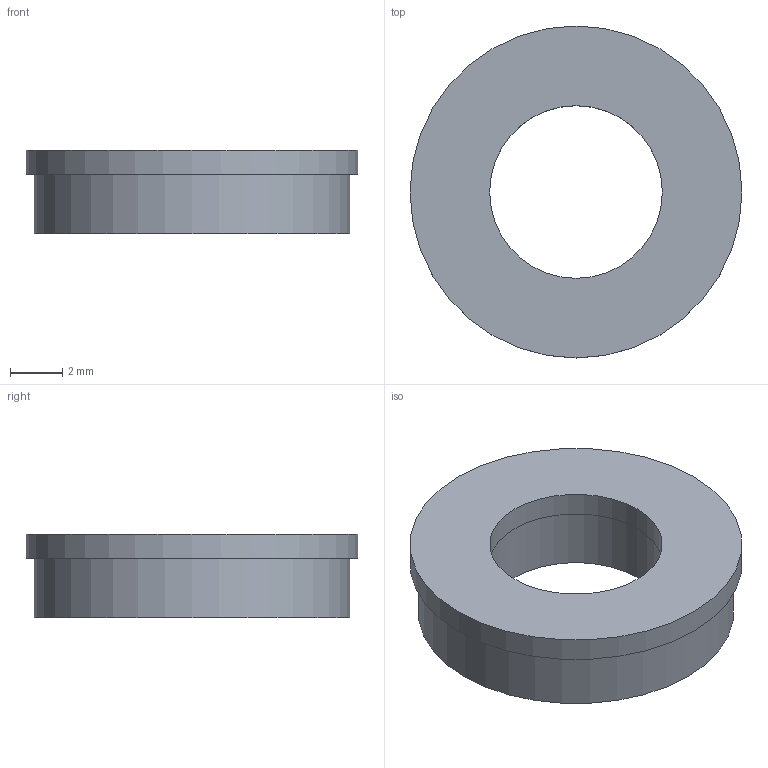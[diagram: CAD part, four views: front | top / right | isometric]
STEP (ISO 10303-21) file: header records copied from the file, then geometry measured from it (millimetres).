
FILE_DESCRIPTION((''),'2;1');
FILE_NAME('C:\Andys Backup Data\ANDY''S INVENTOR\INVENTOR LIBRARIES\PARTS LIBRARY\FASTENING ELEMENTS\WASHERS\21.9906_1 M6 Rubber Backed Lock Washer.stp','2015-06-18T14:29:51',('amoles'),(''),'Autodesk Inventor 2012','Autodesk Inventor 2012','');
FILE_SCHEMA(('AUTOMOTIVE_DESIGN { 1 0 10303 214 1 1 1 1 }'));
Length unit declared in the file: millimetre
Products named in the file (1): 21.9906/1 M6 Rubber Backed Lock Washer
Bounding box: 12.7 x 12.7 x 3.2 mm (x, y, z)
Volume: 267.6 mm3; surface area: 374.4 mm2
Topology: 1 solids, 1 shells, 8 faces, 12 edges, 8 vertices
Faces by surface type: cylinder 4, plane 4
Full cylindrical faces by diameter (mm): 6.604 x2, 12.065 x1, 12.7 x1
Entity records: 216 total; most frequent: DIRECTION 34, CARTESIAN_POINT 25, AXIS2_PLACEMENT_3D 17, ORIENTED_EDGE 16, EDGE_LOOP 16, STYLED_ITEM 9, VERTEX_POINT 8, CIRCLE 8
